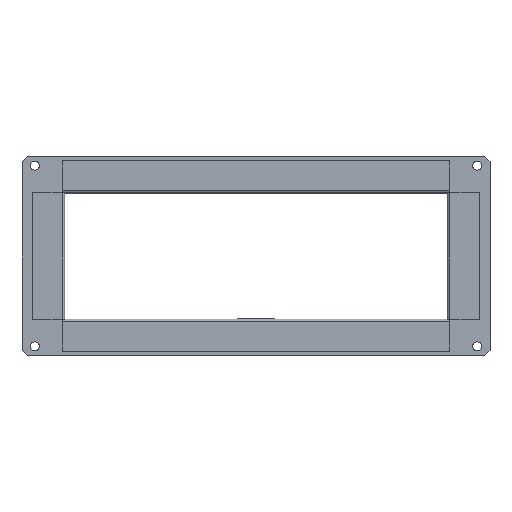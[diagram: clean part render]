
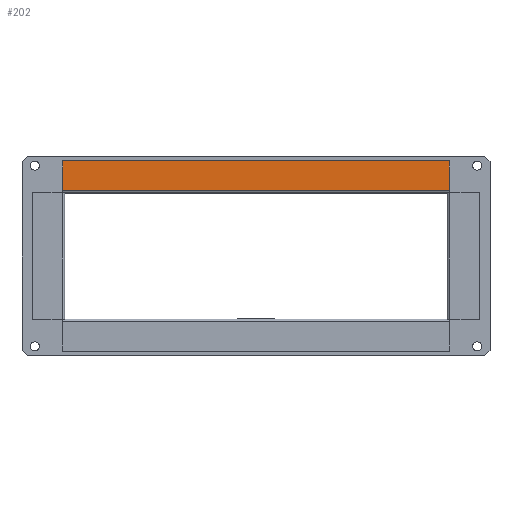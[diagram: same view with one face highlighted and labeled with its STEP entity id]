
A CAD part, top view. The second image highlights one B-rep face of the part: STEP entity #202.
In plain terms, the highlighted planar face has unit normal (0, 0, 1) as drawn and (0, 0, -1) by its records, which use the part's own axes.
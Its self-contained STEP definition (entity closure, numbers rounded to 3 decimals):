
#81 = LINE ( 'NONE', #3822, #5238 ) ;
#202 = ADVANCED_FACE ( 'NONE', ( #2651 ), #2573, .T. ) ;
#205 = VERTEX_POINT ( 'NONE', #4902 ) ;
#282 = VECTOR ( 'NONE', #706, 1000. ) ;
#297 = VERTEX_POINT ( 'NONE', #5348 ) ;
#320 = VECTOR ( 'NONE', #2475, 1000. ) ;
#373 = EDGE_CURVE ( 'NONE', #205, #2974, #1831, .T. ) ;
#706 = DIRECTION ( 'NONE',  ( 0., -1., 0. ) ) ;
#814 = DIRECTION ( 'NONE',  ( 0., 0., -1. ) ) ;
#1369 = DIRECTION ( 'NONE',  ( -1., 0., 0. ) ) ;
#1390 = CARTESIAN_POINT ( 'NONE',  ( -150.8, 1.8, 0. ) ) ;
#1802 = CARTESIAN_POINT ( 'NONE',  ( 150.8, 0., 0. ) ) ;
#1831 = LINE ( 'NONE', #5625, #282 ) ;
#2199 = LINE ( 'NONE', #4972, #4750 ) ;
#2281 = DIRECTION ( 'NONE',  ( 0., -1., 0. ) ) ;
#2475 = DIRECTION ( 'NONE',  ( -1., 0., 0. ) ) ;
#2573 = PLANE ( 'NONE',  #5922 ) ;
#2582 = ORIENTED_EDGE ( 'NONE', *, *, #5711, .T. ) ;
#2651 = FACE_OUTER_BOUND ( 'NONE', #3751, .T. ) ;
#2752 = ORIENTED_EDGE ( 'NONE', *, *, #5015, .T. ) ;
#2840 = ORIENTED_EDGE ( 'NONE', *, *, #5650, .F. ) ;
#2849 = ORIENTED_EDGE ( 'NONE', *, *, #373, .F. ) ;
#2950 = DIRECTION ( 'NONE',  ( -1., 0., 0. ) ) ;
#2974 = VERTEX_POINT ( 'NONE', #1390 ) ;
#2998 = CARTESIAN_POINT ( 'NONE',  ( 150.8, 1.8, 0. ) ) ;
#3751 = EDGE_LOOP ( 'NONE', ( #2849, #2840, #2752, #2582 ) ) ;
#3822 = CARTESIAN_POINT ( 'NONE',  ( 150.8, 0., 0. ) ) ;
#3834 = CARTESIAN_POINT ( 'NONE',  ( 150.8, 1.8, 0. ) ) ;
#4750 = VECTOR ( 'NONE', #1369, 1000. ) ;
#4902 = CARTESIAN_POINT ( 'NONE',  ( -150.8, 25., 0. ) ) ;
#4972 = CARTESIAN_POINT ( 'NONE',  ( 150.8, 25., 0. ) ) ;
#5015 = EDGE_CURVE ( 'NONE', #297, #6070, #81, .T. ) ;
#5238 = VECTOR ( 'NONE', #2281, 1000. ) ;
#5348 = CARTESIAN_POINT ( 'NONE',  ( 150.8, 25., 0. ) ) ;
#5625 = CARTESIAN_POINT ( 'NONE',  ( -150.8, 0., 0. ) ) ;
#5650 = EDGE_CURVE ( 'NONE', #297, #205, #2199, .T. ) ;
#5711 = EDGE_CURVE ( 'NONE', #6070, #2974, #6086, .T. ) ;
#5922 = AXIS2_PLACEMENT_3D ( 'NONE', #1802, #814, #2950 ) ;
#6070 = VERTEX_POINT ( 'NONE', #3834 ) ;
#6086 = LINE ( 'NONE', #2998, #320 ) ;
